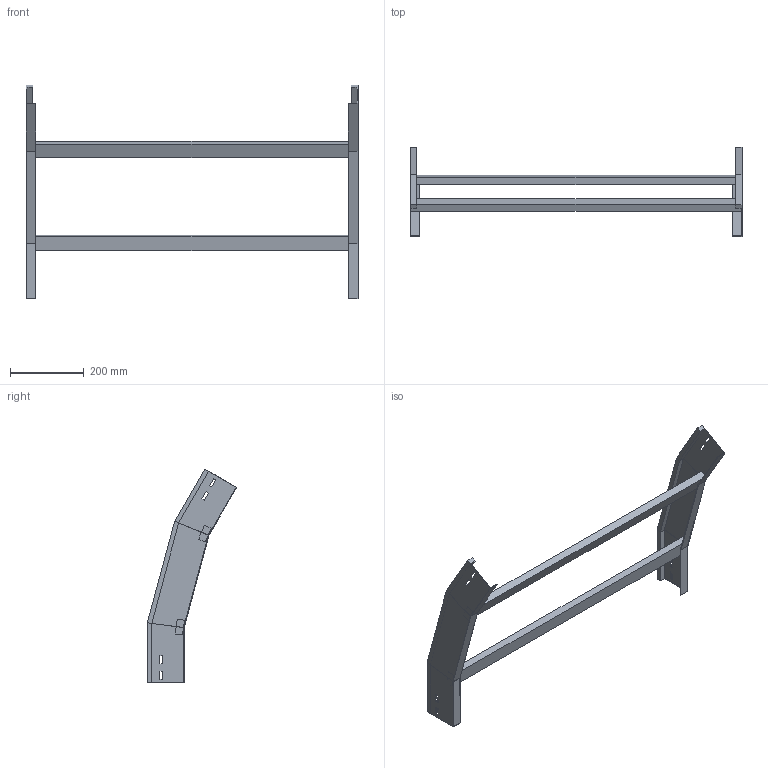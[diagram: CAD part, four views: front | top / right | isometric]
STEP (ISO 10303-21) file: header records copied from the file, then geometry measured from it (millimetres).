
FILE_DESCRIPTION (( 'STEP AP214' ), '1' );
FILE_NAME ('35B5D900.step', '2025-02-21T14:46:01', ( '' ), ( '' ), 'SwSTEP 2.0', 'SolidWorks 2023', '' );
FILE_SCHEMA (( 'AUTOMOTIVE_DESIGN' ));
Length unit declared in the file: millimetre
Products named in the file (3): 35B5D900; LONGH.DISCESA_30°_H100_R500; TRAVERSINO_900
Assembly tree (5 placements, depth 2):
  35B5D900
    LONGH.DISCESA_30°_H100_R500  x2
    TRAVERSINO_900  x3
Bounding box: 900 x 242.03 x 580.08 mm (x, y, z)
Volume: 2698565.4 mm3; surface area: 664051.6 mm2
Topology: 5 solids, 5 shells, 102 faces, 244 edges, 152 vertices
Faces by surface type: plane 102
Entity records: 1480 total; most frequent: CARTESIAN_POINT 244, ORIENTED_EDGE 232, DIRECTION 228, LINE 116, EDGE_CURVE 116, VECTOR 116, VERTEX_POINT 72, AXIS2_PLACEMENT_3D 56
